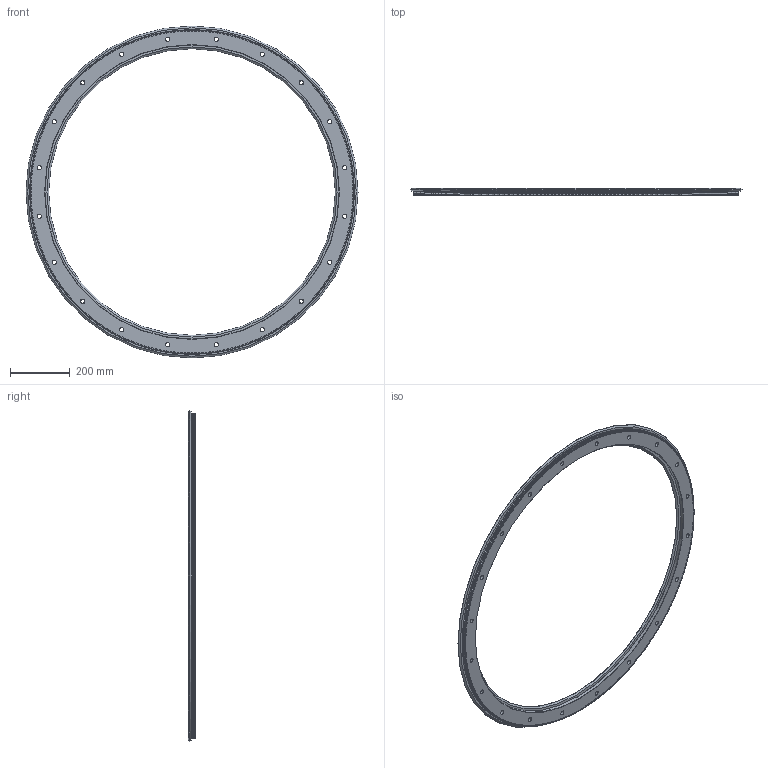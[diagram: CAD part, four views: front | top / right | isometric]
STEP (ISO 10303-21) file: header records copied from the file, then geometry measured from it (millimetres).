
FILE_DESCRIPTION( ( 'STEP AP203' ), '1' );
FILE_NAME( 'p:/temp/worker_26/temp/exporttempdir_4444_10_UcH08/format_0/R76 1033 R360 P.stp', '2021-07-19T05:43:48', ( 'License CC BY-ND 4.0' ), ( 'CADENAS' ), ' ', 'PARTsolutions', ' ' );
FILE_SCHEMA( ( 'CONFIG_CONTROL_DESIGN' ) );
Length unit declared in the file: millimetre
Products named in the file (1): _R76 1033 R360 P
Bounding box: 1108.87 x 24 x 1108.87 mm (x, y, z)
Volume: 4261608.9 mm3; surface area: 718368.3 mm2
Topology: 1 solids, 1 shells, 4413 faces, 11701 edges, 7313 vertices
Faces by surface type: plane 2903, cylinder 763, cone 745, torus 2
Full cylindrical faces by diameter (mm): 14 x20, 20 x20, 982.5 x1, 989.5 x1, 1075.9 x1
Entity records: 136840 total; most frequent: CARTESIAN_POINT 27701, ORIENTED_EDGE 23260, DIRECTION 22730, EDGE_CURVE 11630, AXIS2_PLACEMENT_3D 8126, VERTEX_POINT 7313, LINE 6478, VECTOR 6478
